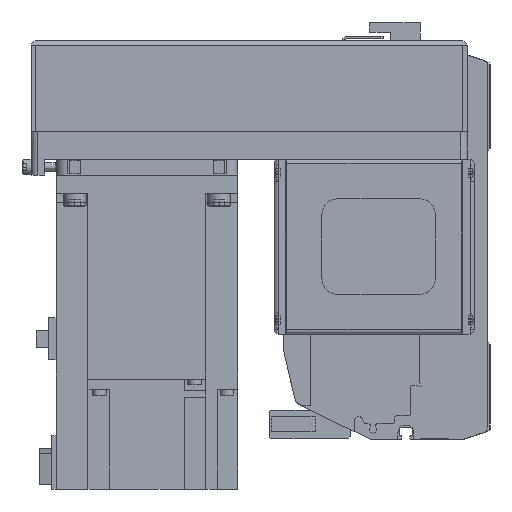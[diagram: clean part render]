
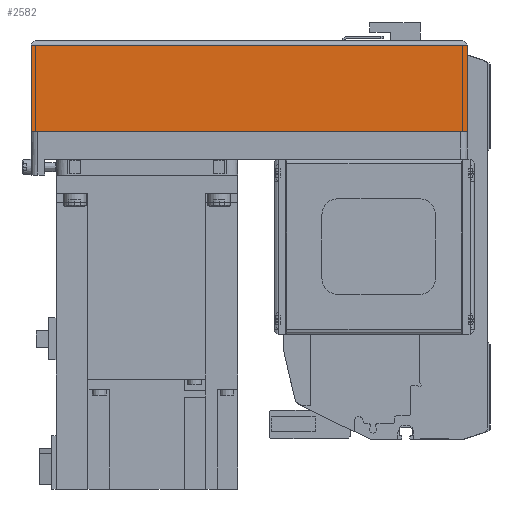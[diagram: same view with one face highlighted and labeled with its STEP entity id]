
A CAD part, left-side view. The second image highlights one B-rep face of the part: STEP entity #2582.
In plain terms, the highlighted planar face has unit normal (-1, 0, 0) as drawn and (0, 1, 0) by its records, which use the part's own axes.
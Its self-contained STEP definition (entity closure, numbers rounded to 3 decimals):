
#2582 = ADVANCED_FACE( '', ( #5774 ), #5775, .T. );
#5774 = FACE_OUTER_BOUND( '', #9702, .T. );
#5775 = PLANE( '', #9703 );
#9702 = EDGE_LOOP( '', ( #17019, #17020, #17021, #17022 ) );
#9703 = AXIS2_PLACEMENT_3D( '', #17023, #17024, #17025 );
#17019 = ORIENTED_EDGE( '', *, *, #22992, .F. );
#17020 = ORIENTED_EDGE( '', *, *, #24589, .F. );
#17021 = ORIENTED_EDGE( '', *, *, #24590, .T. );
#17022 = ORIENTED_EDGE( '', *, *, #22017, .T. );
#17023 = CARTESIAN_POINT( '', ( -192., 40., -50. ) );
#17024 = DIRECTION( '', ( 0., 1., 0. ) );
#17025 = DIRECTION( '', ( 0., 0., 1. ) );
#22017 = EDGE_CURVE( '', #26147, #26145, #26148, .T. );
#22992 = EDGE_CURVE( '', #27824, #26145, #27826, .T. );
#24589 = EDGE_CURVE( '', #26999, #27824, #30229, .T. );
#24590 = EDGE_CURVE( '', #26999, #26147, #30230, .T. );
#26145 = VERTEX_POINT( '', #32288 );
#26147 = VERTEX_POINT( '', #32291 );
#26148 = LINE( '', #32292, #32293 );
#26999 = VERTEX_POINT( '', #33564 );
#27824 = VERTEX_POINT( '', #35015 );
#27826 = LINE( '', #35018, #35019 );
#30229 = LINE( '', #39134, #39135 );
#30230 = LINE( '', #39136, #39137 );
#32288 = CARTESIAN_POINT( '', ( 0., 40., -12.1 ) );
#32291 = CARTESIAN_POINT( '', ( -192., 40., -12.1 ) );
#32292 = CARTESIAN_POINT( '', ( -192., 40., -12.1 ) );
#32293 = VECTOR( '', #41349, 1000. );
#33564 = CARTESIAN_POINT( '', ( -192., 40., -50. ) );
#35015 = CARTESIAN_POINT( '', ( 0., 40., -50. ) );
#35018 = CARTESIAN_POINT( '', ( 0., 40., -50. ) );
#35019 = VECTOR( '', #42628, 1000. );
#39134 = CARTESIAN_POINT( '', ( -192., 40., -50. ) );
#39135 = VECTOR( '', #44534, 1000. );
#39136 = CARTESIAN_POINT( '', ( -192., 40., -50. ) );
#39137 = VECTOR( '', #44535, 1000. );
#41349 = DIRECTION( '', ( 1., 0., 0. ) );
#42628 = DIRECTION( '', ( 0., 0., 1. ) );
#44534 = DIRECTION( '', ( 1., 0., 0. ) );
#44535 = DIRECTION( '', ( 0., 0., 1. ) );
